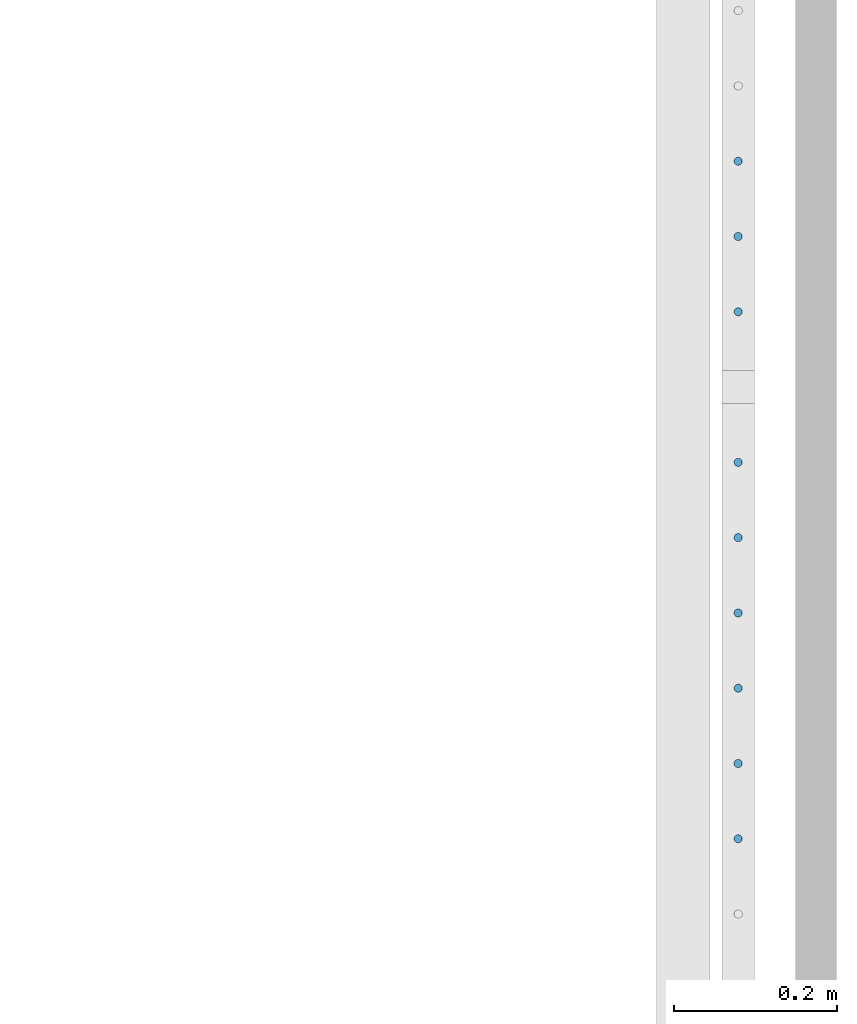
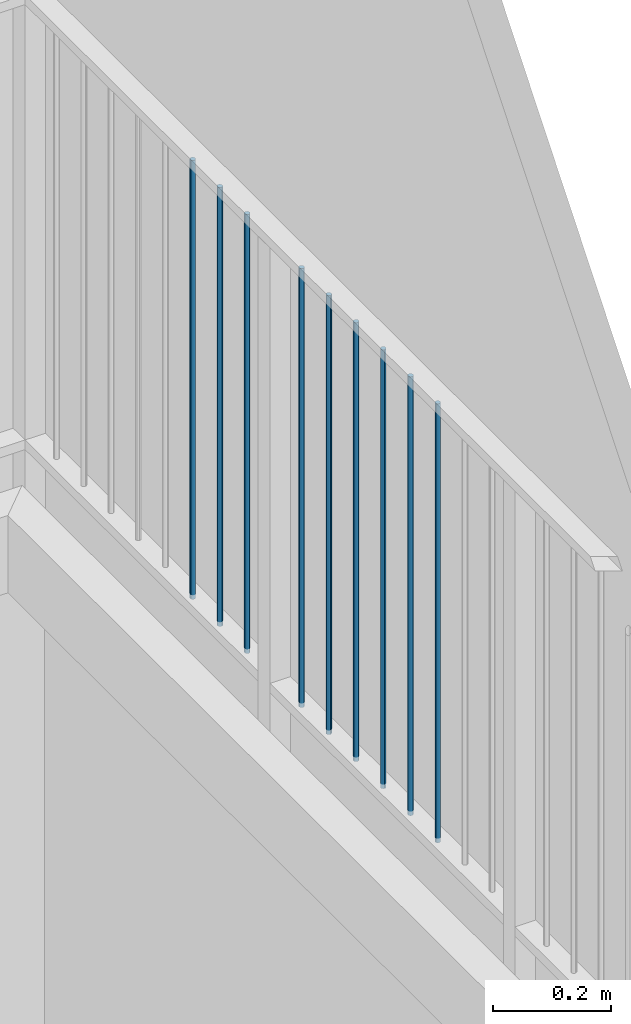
# One storey, part 39 of 135: 9 members, 1 element without a shape of its own.
"""IFC2X3 building model written with IfcOpenShell, lengths in millimetres."""

from ifc_helpers import new_model, entity, si_unit, converted_unit, derived_unit, money_unit, direction, frame, origin_with_axes, place, context, subcontext, project, spatial, faceted_brep, source, transform, mapped, material, type_object, type_shapes, element, aggregate, save


model = new_model("IFC2X3")

# Units and contexts
model_context = context("Model", 3, precision=0.01, world=origin_with_axes(), true_north=direction((0.0, 1.0)))
body_context = subcontext(model_context, "Body", "Model", "MODEL_VIEW")
ifc_project = project(units=[si_unit("LENGTHUNIT", "METRE", prefix="MILLI"), si_unit("AREAUNIT", "SQUARE_METRE"), si_unit("VOLUMEUNIT", "CUBIC_METRE"), converted_unit("PLANEANGLEUNIT", "DEGREE", entity("IfcPlaneAngleMeasure", 0.0174532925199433), si_unit("PLANEANGLEUNIT", "RADIAN"), dimensions=[0, 0, 0, 0, 0, 0, 0]), money_unit("EUR"), converted_unit("TIMEUNIT", "Year", entity("IfcTimeMeasure", 31557600.0), si_unit("TIMEUNIT", "SECOND"), dimensions=[0, 0, 1, 0, 0, 0, 0]), si_unit("MASSUNIT", "GRAM", prefix="KILO"), si_unit("THERMODYNAMICTEMPERATUREUNIT", "DEGREE_CELSIUS"), si_unit("LUMINOUSINTENSITYUNIT", "LUMEN"), si_unit("ENERGYUNIT", "JOULE", prefix="MEGA"), derived_unit("THERMALCONDUCTANCEUNIT", [(si_unit("POWERUNIT", "WATT"), 1), (si_unit("LENGTHUNIT", "METRE"), -1), (si_unit("THERMODYNAMICTEMPERATUREUNIT", "KELVIN"), -1)]), derived_unit("SPECIFICHEATCAPACITYUNIT", [(si_unit("ENERGYUNIT", "JOULE"), 1), (si_unit("MASSUNIT", "GRAM", prefix="KILO"), -1), (si_unit("THERMODYNAMICTEMPERATUREUNIT", "KELVIN"), -1)]), derived_unit("MASSDENSITYUNIT", [(si_unit("MASSUNIT", "GRAM", prefix="KILO"), 1), (si_unit("VOLUMEUNIT", "CUBIC_METRE"), -1)])], contexts=[model_context])

# Site, building, storey
site_placement = place(None, origin_with_axes())
site = spatial("IfcSite", under=ifc_project, at=site_placement, Name="Site", CompositionType="ELEMENT")
building_placement = place(site_placement, origin_with_axes())
building = spatial("IfcBuilding", under=site, at=building_placement, Name="Naam gebouw", CompositionType="ELEMENT")
storey_placement = place(building_placement, origin_with_axes())
storey = spatial("IfcBuildingStorey", under=building, at=storey_placement, Name="Begane grond N", CompositionType="ELEMENT", Elevation=0.0)

# Railing, members
railing_type = type_object("IfcRailingType", Name="Railing Type", PredefinedType="NOTDEFINED")
railing_placement = place(storey_placement, frame((56236.62159597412, 21185.9124251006, 157.4646725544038), z_axis=(0.0, 0.0, 1.0), x_axis=(1.0, 0.0, 0.0)))
railing = element("IfcRailing", 1, at=railing_placement, inside=storey, type_object=railing_type, Name="_Reling-x", PredefinedType="NOTDEFINED")
ifc_material = material(Name="Metaal - Staal C")
member_type = type_object("IfcMemberType", Name="IfcMember", PredefinedType="MEMBER")
shared_shape = source(origin_with_axes(), body_context, "Body", "Brep", [
    faceted_brep([(0.0, -5.0, 0.0), (0.8682408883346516, -4.92403876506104, 0.0), (0.868240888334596, -4.92403876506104, 907.5000000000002), (0.0, -5.0, 907.5000000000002), (-0.868240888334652, -4.92403876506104, 0.0), (-1.710100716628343, -4.698463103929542, 0.0), (-2.500000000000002, -4.330127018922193, 0.0), (-3.213938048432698, -3.830222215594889, 0.0), (-3.830222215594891, -3.213938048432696, 0.0), (-4.330127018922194, -2.5, 0.0), (-4.698463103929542, -1.710100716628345, 0.0), (-4.924038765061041, -0.86824088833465, 0.0), (-5.0, 0.0, 0.0), (-4.92403876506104, 0.8682408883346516, 0.0), (-4.698463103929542, 1.710100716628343, 0.0), (-4.330127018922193, 2.500000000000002, 0.0), (-3.83022221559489, 3.213938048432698, 0.0), (-3.213938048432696, 3.83022221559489, 0.0), (-2.5, 4.330127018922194, 0.0), (-1.710100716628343, 4.698463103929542, 0.0), (-0.8682408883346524, 4.92403876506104, 0.0), (0.0, 5.0, 0.0), (0.8682408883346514, 4.92403876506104, 0.0), (1.710100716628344, 4.698463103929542, 0.0), (2.5, 4.330127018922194, 0.0), (3.213938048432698, 3.83022221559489, 0.0), (3.83022221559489, 3.213938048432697, 0.0), (4.330127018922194, 2.499999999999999, 0.0), (4.698463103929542, 1.710100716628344, 0.0), (4.92403876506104, 0.8682408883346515, 0.0), (5.0, 0.0, 0.0), (4.92403876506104, -0.8682408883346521, 0.0), (4.698463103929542, -1.710100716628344, 0.0), (4.330127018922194, -2.5, 0.0), (3.83022221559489, -3.213938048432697, 0.0), (3.213938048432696, -3.83022221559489, 0.0), (2.5, -4.330127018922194, 0.0), (1.710100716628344, -4.698463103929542, 0.0), (1.710100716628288, -4.698463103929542, 907.5000000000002), (2.499999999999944, -4.330127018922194, 907.5000000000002), (3.213938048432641, -3.83022221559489, 907.5000000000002), (3.830222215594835, -3.213938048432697, 907.5000000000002), (4.330127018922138, -2.5, 907.5000000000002), (4.698463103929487, -1.710100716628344, 907.5000000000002), (4.924038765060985, -0.8682408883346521, 907.5000000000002), (4.999999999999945, 0.0, 907.5000000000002), (4.924038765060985, 0.8682408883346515, 907.5000000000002), (4.698463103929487, 1.710100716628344, 907.5000000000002), (4.330127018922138, 2.499999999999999, 907.5000000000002), (3.830222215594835, 3.213938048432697, 907.5000000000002), (3.213938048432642, 3.83022221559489, 907.5000000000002), (2.499999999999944, 4.330127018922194, 907.5000000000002), (1.710100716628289, 4.698463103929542, 907.5000000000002), (0.8682408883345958, 4.92403876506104, 907.5000000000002), (0.0, 5.0, 907.5000000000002), (-0.868240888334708, 4.92403876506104, 907.5000000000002), (-1.710100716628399, 4.698463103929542, 907.5000000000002), (-2.500000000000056, 4.330127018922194, 907.5000000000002), (-3.213938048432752, 3.83022221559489, 907.5000000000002), (-3.830222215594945, 3.213938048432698, 907.5000000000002), (-4.330127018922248, 2.500000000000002, 907.5000000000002), (-4.698463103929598, 1.710100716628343, 907.5000000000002), (-4.924038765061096, 0.8682408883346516, 907.5000000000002), (-5.000000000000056, 0.0, 907.5000000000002), (-4.924038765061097, -0.86824088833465, 907.5000000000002), (-4.698463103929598, -1.710100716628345, 907.5000000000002), (-4.330127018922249, -2.5, 907.5000000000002), (-3.830222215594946, -3.213938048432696, 907.5000000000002), (-3.213938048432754, -3.830222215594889, 907.5000000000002), (-2.500000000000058, -4.330127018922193, 907.5000000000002), (-1.710100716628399, -4.698463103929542, 907.5000000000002), (-0.8682408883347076, -4.92403876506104, 907.5000000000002)], [[[0, 1, 2, 3]], [[0, 4, 5, 6, 7, 8, 9, 10, 11, 12, 13, 14, 15, 16, 17, 18, 19, 20, 21, 22, 23, 24, 25, 26, 27, 28, 29, 30, 31, 32, 33, 34, 35, 36, 37, 1]], [[1, 37, 38, 2]], [[3, 2, 38, 39, 40, 41, 42, 43, 44, 45, 46, 47, 48, 49, 50, 51, 52, 53, 54, 55, 56, 57, 58, 59, 60, 61, 62, 63, 64, 65, 66, 67, 68, 69, 70, 71]], [[4, 0, 3, 71]], [[5, 4, 71, 70]], [[6, 5, 70, 69]], [[7, 6, 69, 68]], [[8, 7, 68, 67]], [[9, 8, 67, 66]], [[10, 9, 66, 65]], [[11, 10, 65, 64]], [[12, 11, 64, 63]], [[13, 12, 63, 62]], [[14, 13, 62, 61]], [[15, 14, 61, 60]], [[16, 15, 60, 59]], [[17, 16, 59, 58]], [[18, 17, 58, 57]], [[19, 18, 57, 56]], [[20, 19, 56, 55]], [[21, 20, 55, 54]], [[22, 21, 54, 53]], [[23, 22, 53, 52]], [[24, 23, 52, 51]], [[25, 24, 51, 50]], [[26, 25, 50, 49]], [[27, 26, 49, 48]], [[28, 27, 48, 47]], [[29, 28, 47, 46]], [[30, 29, 46, 45]], [[31, 30, 45, 44]], [[32, 31, 44, 43]], [[33, 32, 43, 42]], [[34, 33, 42, 41]], [[35, 34, 41, 40]], [[36, 35, 40, 39]], [[37, 36, 39, 38]]]),
])
type_shapes(member_type, [shared_shape])
member_1_placement = place(railing_placement, frame((3908.03766228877, 1081.666666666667, 2000.208938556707), z_axis=(0.0, 0.0, 1.0), x_axis=(1.0, 0.0, 0.0)))
member_1 = element("IfcMember", 2, at=member_1_placement, type_object=member_type, material=ifc_material, Name="_Spijlen-x", ObjectType="MEMBER", context=body_context, shape_type="MappedRepresentation", body=[
    mapped(shared_shape, transform((0.0, 0.0, 0.0))),
])
member_2_placement = place(railing_placement, frame((3908.03766228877, 1173.888888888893, 2000.208938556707), z_axis=(0.0, 0.0, 1.0), x_axis=(1.0, 0.0, 0.0)))
member_2 = element("IfcMember", 3, at=member_2_placement, type_object=member_type, material=ifc_material, Name="_Spijlen-x", ObjectType="MEMBER", context=body_context, shape_type="MappedRepresentation", body=[
    mapped(shared_shape, transform((0.0, 0.0, 0.0))),
])
member_3_placement = place(railing_placement, frame((3908.03766228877, 1266.111111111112, 2000.208938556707), z_axis=(0.0, 0.0, 1.0), x_axis=(1.0, 0.0, 0.0)))
member_3 = element("IfcMember", 4, at=member_3_placement, type_object=member_type, material=ifc_material, Name="_Spijlen-x", ObjectType="MEMBER", context=body_context, shape_type="MappedRepresentation", body=[
    mapped(shared_shape, transform((0.0, 0.0, 0.0))),
])
member_4_placement = place(railing_placement, frame((3908.03766228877, 1358.333333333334, 2000.208938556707), z_axis=(0.0, 0.0, 1.0), x_axis=(1.0, 0.0, 0.0)))
member_4 = element("IfcMember", 5, at=member_4_placement, type_object=member_type, material=ifc_material, Name="_Spijlen-x", ObjectType="MEMBER", context=body_context, shape_type="MappedRepresentation", body=[
    mapped(shared_shape, transform((0.0, 0.0, 0.0))),
])
member_5_placement = place(railing_placement, frame((3908.03766228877, 1450.555555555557, 2000.208938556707), z_axis=(0.0, 0.0, 1.0), x_axis=(1.0, 0.0, 0.0)))
member_5 = element("IfcMember", 6, at=member_5_placement, type_object=member_type, material=ifc_material, Name="_Spijlen-x", ObjectType="MEMBER", context=body_context, shape_type="MappedRepresentation", body=[
    mapped(shared_shape, transform((0.0, 0.0, 0.0))),
])
member_6_placement = place(railing_placement, frame((3908.03766228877, 1542.777777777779, 2000.208938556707), z_axis=(0.0, 0.0, 1.0), x_axis=(1.0, 0.0, 0.0)))
member_6 = element("IfcMember", 7, at=member_6_placement, type_object=member_type, material=ifc_material, Name="_Spijlen-x", ObjectType="MEMBER", context=body_context, shape_type="MappedRepresentation", body=[
    mapped(shared_shape, transform((0.0, 0.0, 0.0))),
])
member_7_placement = place(railing_placement, frame((3908.03766228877, 1727.222222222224, 2000.208938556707), z_axis=(0.0, 0.0, 1.0), x_axis=(1.0, 0.0, 0.0)))
member_7 = element("IfcMember", 8, at=member_7_placement, type_object=member_type, material=ifc_material, Name="_Spijlen-x", ObjectType="MEMBER", context=body_context, shape_type="MappedRepresentation", body=[
    mapped(shared_shape, transform((0.0, 0.0, 0.0))),
])
member_8_placement = place(railing_placement, frame((3908.03766228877, 1819.444444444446, 2000.208938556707), z_axis=(0.0, 0.0, 1.0), x_axis=(1.0, 0.0, 0.0)))
member_8 = element("IfcMember", 9, at=member_8_placement, type_object=member_type, material=ifc_material, Name="_Spijlen-x", ObjectType="MEMBER", context=body_context, shape_type="MappedRepresentation", body=[
    mapped(shared_shape, transform((0.0, 0.0, 0.0))),
])
member_9_placement = place(railing_placement, frame((3908.03766228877, 1911.666666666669, 2000.208938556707), z_axis=(0.0, 0.0, 1.0), x_axis=(1.0, 0.0, 0.0)))
member_9 = element("IfcMember", 10, at=member_9_placement, type_object=member_type, material=ifc_material, Name="_Spijlen-x", ObjectType="MEMBER", context=body_context, shape_type="MappedRepresentation", body=[
    mapped(shared_shape, transform((0.0, 0.0, 0.0))),
])
aggregate(railing, [member_1, member_2, member_3, member_4, member_5, member_6, member_7, member_8, member_9])

save(model, "model.ifc")
